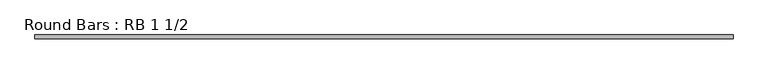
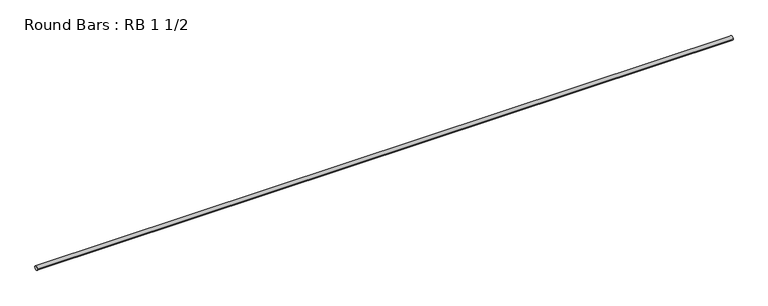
"""IFC4 building model written with IfcOpenShell, lengths in millimetres: member geometry, Round Bars : RB 1 1/2."""

import ifcopenshell
import ifcopenshell.guid

model = None  # the IFC model being written
_history = None  # IfcOwnerHistory: only IFC2X3 demands one
_inside = {}  # id of a spatial element -> (the spatial element, [elements in it])
_under = {}  # id of a project, library or spatial element -> (it, [spatial elements below it])
_declared = {}  # id of a project -> (the project, [libraries it declares])
_typed = {}  # id of a type object -> (the type object, [elements of that type])
_made_of = {}  # id of a material, layer set ... -> (it, [elements and type objects made of it])


def new_model(schema):
    """Start an empty IFC model of exactly this schema.

    Asked for "IFC4X3", IfcOpenShell would pick the latest addendum, in which some entities
    have other attributes; the version numbers below select the first issue.
    IFC2X3 requires an IfcOwnerHistory on every rooted entity: one is made here for all.
    """
    global model, _history
    if schema == "IFC4X3":
        model = ifcopenshell.file(schema_version=(4, 3, 0, 0))
    else:
        model = ifcopenshell.file(schema=schema)
    _inside.clear()
    _under.clear()
    _declared.clear()
    _typed.clear()
    _made_of.clear()
    _history = None
    if model.schema == "IFC2X3":
        org = make("IfcOrganization", Name="unknown")
        user = make(
            "IfcPersonAndOrganization",
            ThePerson=make("IfcPerson", FamilyName="unknown"),
            TheOrganization=org,
        )
        app = make(
            "IfcApplication",
            ApplicationDeveloper=org,
            Version="unknown",
            ApplicationFullName="unknown",
            ApplicationIdentifier="unknown",
        )
        _history = make(
            "IfcOwnerHistory",
            OwningUser=user,
            OwningApplication=app,
            ChangeAction="ADDED",
            CreationDate=0,
        )
    return model


def make(cls, **values):
    """One entity of the class cls with the attributes given. An attribute that is None is left unset."""
    return model.create_entity(
        cls, **{name: value for name, value in values.items() if value is not None}
    )


def rooted(cls, **values):
    """An entity with a GlobalId (a new one), such as an element, a storey or a relation."""
    return make(cls, GlobalId=ifcopenshell.guid.new(), OwnerHistory=_history, **values)


def si_unit(unit_type, name, prefix=None):
    """IfcSIUnit, for example si_unit("LENGTHUNIT", "METRE", prefix="MILLI")."""
    return make("IfcSIUnit", UnitType=unit_type, Prefix=prefix, Name=name)


def assignment(units):
    """IfcUnitAssignment: the units of a project."""
    return None if units is None else make("IfcUnitAssignment", Units=units)


def point(xyz):
    """IfcCartesianPoint."""
    return None if xyz is None else make("IfcCartesianPoint", Coordinates=xyz)


def direction(xyz):
    """IfcDirection."""
    return None if xyz is None else make("IfcDirection", DirectionRatios=xyz)


def frame(location, z_axis=None, x_axis=None):
    """IfcAxis2Placement3D, a coordinate frame: its origin and axes. An axis left out is left unset."""
    return make(
        "IfcAxis2Placement3D",
        Location=point(location),
        Axis=direction(z_axis),
        RefDirection=direction(x_axis),
    )


def frame_2d(location, x_axis=None):
    """IfcAxis2Placement2D, a coordinate frame in the plane: its origin and x axis."""
    return make(
        "IfcAxis2Placement2D", Location=point(location), RefDirection=direction(x_axis)
    )


def origin():
    """The frame at (0, 0, 0) with its axes left unset."""
    return frame((0.0, 0.0, 0.0))


def origin_2d():
    """The frame at (0, 0) in the plane with its x axis left unset."""
    return frame_2d((0.0, 0.0))


def place(relative_to, where):
    """IfcLocalPlacement: puts the frame where relative to a parent placement (None: the world)."""
    return make(
        "IfcLocalPlacement", PlacementRelTo=relative_to, RelativePlacement=where
    )


def context(
    kind, dimensions, precision=None, world=None, true_north=None, identifier=None
):
    """IfcGeometricRepresentationContext, for example the 3D "Model" context."""
    return make(
        "IfcGeometricRepresentationContext",
        ContextIdentifier=identifier,
        ContextType=kind,
        CoordinateSpaceDimension=dimensions,
        Precision=precision,
        WorldCoordinateSystem=world,
        TrueNorth=true_north,
    )


def project(units=None, contexts=None):
    """IfcProject with its units and contexts."""
    return rooted(
        "IfcProject",
        Name="project",
        RepresentationContexts=contexts,
        UnitsInContext=assignment(units),
    )


def spatial(cls, under=None, at=None, **own):
    """A site, building, storey or space (cls), placed at a placement, below another one or the project."""
    s = rooted(cls, ObjectPlacement=at, **own)
    if under is not None:
        _under.setdefault(under.id(), (under, []))[1].append(s)
    return s


def circle_curve(where, radius):
    """IfcCircle in the frame where."""
    return make("IfcCircle", Position=where, Radius=radius)


def trimmed(basis, trim1, trim2, sense, master):
    """IfcTrimmedCurve: the piece of a basis curve between two trims."""
    return make(
        "IfcTrimmedCurve",
        BasisCurve=basis,
        Trim1=trim1,
        Trim2=trim2,
        SenseAgreement=sense,
        MasterRepresentation=master,
    )


def segment(curve, same_sense, transition):
    """IfcCompositeCurveSegment."""
    return make(
        "IfcCompositeCurveSegment",
        Transition=transition,
        SameSense=same_sense,
        ParentCurve=curve,
    )


def composite_curve(segments, self_intersect=None):
    """IfcCompositeCurve: segments joined end to end."""
    return make("IfcCompositeCurve", Segments=segments, SelfIntersect=self_intersect)


def outline(outer, holes=None, kind="AREA"):
    """IfcArbitraryClosedProfileDef: a profile drawn as a closed curve; with holes, ...WithVoids."""
    if holes is None:
        return make("IfcArbitraryClosedProfileDef", ProfileType=kind, OuterCurve=outer)
    return make(
        "IfcArbitraryProfileDefWithVoids",
        ProfileType=kind,
        OuterCurve=outer,
        InnerCurves=holes,
    )


def extrude(swept, where, along, depth):
    """IfcExtrudedAreaSolid: the profile swept, set in the frame where, extruded along a direction by depth."""
    return make(
        "IfcExtrudedAreaSolid",
        SweptArea=swept,
        Position=where,
        ExtrudedDirection=direction(along),
        Depth=depth,
    )


def shape(context_of_items, identifier, shape_type, items):
    """IfcShapeRepresentation: the items that make up one representation, for example the "Body"."""
    return make(
        "IfcShapeRepresentation",
        ContextOfItems=context_of_items,
        RepresentationIdentifier=identifier,
        RepresentationType=shape_type,
        Items=items,
    )


def source(mapping_origin, context_of_items, identifier, shape_type, items):
    """IfcRepresentationMap: a shape defined once, which mapped items show again and again."""
    return make(
        "IfcRepresentationMap",
        MappingOrigin=mapping_origin,
        MappedRepresentation=shape(context_of_items, identifier, shape_type, items),
    )


def transform(
    local_origin,
    x_axis=None,
    y_axis=None,
    z_axis=None,
    scale=None,
    scale2=None,
    scale3=None,
    uniform=True,
):
    """IfcCartesianTransformationOperator3D, or its non-uniform kind. x_axis, y_axis, z_axis: its Axis1, 2, 3."""
    if uniform:
        return make(
            "IfcCartesianTransformationOperator3D",
            Axis1=direction(x_axis),
            Axis2=direction(y_axis),
            LocalOrigin=point(local_origin),
            Scale=scale,
            Axis3=direction(z_axis),
        )
    return make(
        "IfcCartesianTransformationOperator3DnonUniform",
        Axis1=direction(x_axis),
        Axis2=direction(y_axis),
        LocalOrigin=point(local_origin),
        Scale=scale,
        Axis3=direction(z_axis),
        Scale2=scale2,
        Scale3=scale3,
    )


def mapped(mapping_source, mapping_target):
    """IfcMappedItem: shows the shape of a source again, moved by a transform."""
    return make(
        "IfcMappedItem", MappingSource=mapping_source, MappingTarget=mapping_target
    )


def made_of(thing, what):
    """Note that an element or type object is made of a material, layer set ...; save() writes the relation."""
    if what is not None:
        _made_of.setdefault(what.id(), (what, []))[1].append(thing)
    return thing


def element(
    cls,
    number,
    at=None,
    inside=None,
    cuts=None,
    type_object=None,
    material=None,
    context=None,
    identifier="Body",
    shape_type=None,
    held_by="IfcProductDefinitionShape",
    body=None,
    shapes=None,
    **own,
):
    """One element of the class cls, such as IfcWall. Its Tag is "e" and its number.

    at: its placement. inside: the storey or other place that contains it. cuts: it is an
    opening in that element (IfcRelVoidsElement). A single representation is given by context,
    identifier, shape_type and body (its items); several are given by shapes. held_by: the class
    of the entity that holds the representations. save() writes the other relations.
    """
    e = rooted(cls, Tag="e%d" % number, ObjectPlacement=at, **own)
    if body is not None:
        shapes = [shape(context, identifier, shape_type, body)]
    if shapes is not None:
        e.Representation = make(held_by, Representations=shapes)
    if inside is not None:
        _inside.setdefault(inside.id(), (inside, []))[1].append(e)
    if cuts is not None:
        rooted(
            "IfcRelVoidsElement", RelatingBuildingElement=cuts, RelatedOpeningElement=e
        )
    if type_object is not None:
        _typed.setdefault(type_object.id(), (type_object, []))[1].append(e)
    return made_of(e, material)


def aggregate(whole, parts):
    """IfcRelAggregates: a whole, such as a stair, and the parts it consists of."""
    return rooted("IfcRelAggregates", RelatingObject=whole, RelatedObjects=parts)


def save(model, path):
    """Write the relations noted so far, then the file.

    IfcRelAggregates (storeys below a building ...), IfcRelContainedInSpatialStructure (elements
    in a storey), IfcRelDefinesByType, IfcRelAssociatesMaterial and IfcRelDeclares: one each for
    every whole, place, type object, material and project.
    """
    for whole, parts in _under.values():
        aggregate(whole, parts)
    for where, things in _inside.values():
        rooted(
            "IfcRelContainedInSpatialStructure",
            RelatedElements=things,
            RelatingStructure=where,
        )
    for kind, things in _typed.values():
        rooted("IfcRelDefinesByType", RelatedObjects=things, RelatingType=kind)
    for what, things in _made_of.values():
        rooted("IfcRelAssociatesMaterial", RelatedObjects=things, RelatingMaterial=what)
    for by, libraries in _declared.values():
        rooted("IfcRelDeclares", RelatingContext=by, RelatedDefinitions=libraries)
    model.write(path)


def round_bars_rb_1_1_2_8d5aa2d9(model_context):
    return source(origin(), model_context, "Body", "SweptSolid", [
        extrude(outline(composite_curve([segment(trimmed(circle_curve(origin_2d(), 19.05), [point((19.05, 0.0))], [point((-19.05, 0.0))], False, "CARTESIAN"), True, "CONTINUOUS"), segment(trimmed(circle_curve(origin_2d(), 19.05), [point((-19.05, 0.0))], [point((19.05, 0.0))], False, "CARTESIAN"), True, "CONTINUOUS")], self_intersect=False)), frame((-3290.7941075, 0.0, 0.0), z_axis=(1.0, 0.0, 0.0), x_axis=(0.0, 1.0, 0.0)), (0.0, 0.0, 1.0), 6581.5882151),
    ])


if __name__ == "__main__":
    model = new_model("IFC4")
    model_context = context("Model", 3, world=origin())
    ifc_project = project(units=[si_unit("LENGTHUNIT", "METRE", prefix="MILLI")], contexts=[model_context])
    site = spatial("IfcSite", under=ifc_project)
    building = spatial("IfcBuilding", under=site)
    placement = place(None, origin())
    round_bars_rb_1_1_2_shape = round_bars_rb_1_1_2_8d5aa2d9(model_context)
    element("IfcMember", 1, ObjectType="Round Bars : RB 1 1/2", at=placement, inside=building, context=model_context, shape_type="MappedRepresentation", body=[
        mapped(round_bars_rb_1_1_2_shape, transform((0.0, 0.0, 0.0), x_axis=(1.0, 0.0, 0.0), y_axis=(0.0, 1.0, 0.0), z_axis=(0.0, 0.0, 1.0))),
    ])
    save(model, "model.ifc")
